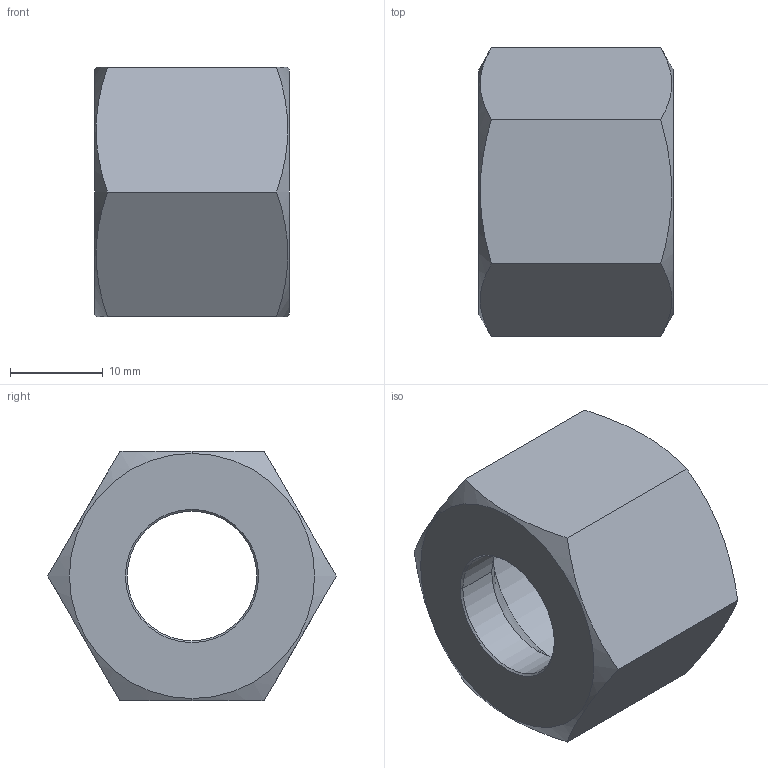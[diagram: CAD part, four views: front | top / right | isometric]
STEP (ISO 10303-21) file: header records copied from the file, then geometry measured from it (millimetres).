
FILE_DESCRIPTION((''),'2;1');
FILE_NAME('100218.stp','2006-03-06T15:10:32',('Dario Falcomer'),('CAST S.p.A.'),'AutoCAD STEP 2000i','AutoCAD 2000i',', , ');
FILE_SCHEMA(('CONFIG_CONTROL_DESIGN'));
Length unit declared in the file: millimetre
Products named in the file (2): 100218.0; CHIAVE_DADI#0
Assembly tree (1 placements, depth 2):
  100218.0
    CHIAVE_DADI#0
Bounding box: 21 x 31.18 x 27 mm (x, y, z)
Volume: 7305.8 mm3; surface area: 3913.8 mm2
Topology: 1 solids, 1 shells, 22 faces, 52 edges, 32 vertices
Faces by surface type: cone 10, plane 8, cylinder 4
Entity records: 725 total; most frequent: CARTESIAN_POINT 140, ORIENTED_EDGE 104, DIRECTION 100, EDGE_CURVE 52, AXIS2_PLACEMENT_3D 40, VERTEX_POINT 32, EDGE_LOOP 24, FACE_OUTER_BOUND 22
